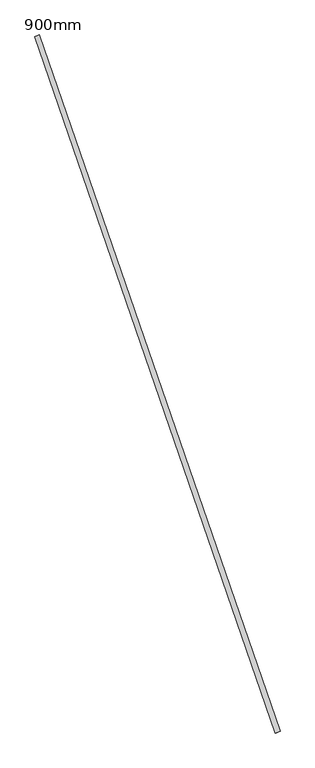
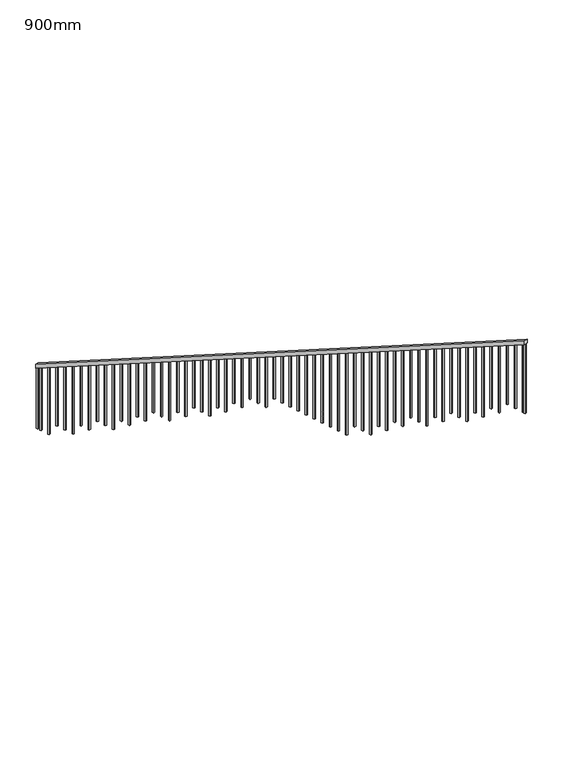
"""IFC4 building model written with IfcOpenShell, lengths in millimetres: railing geometry, 900mm."""

from ifc_helpers import new_model, si_unit, frame, origin, place, context, project, spatial, polyline, outline, extrude, source, transform, mapped, element, save


def railing_900mm_441bb158(model_context):
    return source(origin(), model_context, "Body", "SweptSolid", [
        extrude(outline(polyline([(25.1552795, -49.9999999), (0.0, 0.0), (8507.6398583, 1e-07), (8532.7951379, -50.0), (25.1552795, -49.9999999)])), frame((501134.4272488, 36723.9035754, 1045.2709212), z_axis=(0.9452094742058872, 0.32646446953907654, 0.0), x_axis=(0.2916355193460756, -0.8443695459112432, 0.44943163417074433)), (0.0, 0.0, 1.0), 50.0),
        extrude(outline(polyline([(105.0310559, 0.0), (1076.0939025, 0.0), (1076.0939025, -20.0), (94.9689441, -20.0), (105.0310559, 0.0)])), frame((503614.2282971, 29590.1059885, 4950.006946), z_axis=(0.9452094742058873, 0.3264644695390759, 0.0), x_axis=(0.0, 0.0, -1.0)), (0.0, 0.0, 1.0), 20.0),
        extrude(outline(polyline([(105.0310559, 0.0), (1013.2057038, 0.0), (1013.2057038, -20.0), (94.9689441, -20.0), (105.0310559, 0.0)])), frame((503573.4202384, 29708.2571728, 4887.1187473), z_axis=(0.9452094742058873, 0.3264644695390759, 0.0), x_axis=(0.0, 0.0, -1.0)), (0.0, 0.0, 1.0), 20.0),
        extrude(outline(polyline([(105.0310559, 0.0), (950.317505, 0.0), (950.317505, -20.0), (94.9689441, -20.0), (105.0310559, 0.0)])), frame((503532.6121797, 29826.408357, 4824.2305485), z_axis=(0.9452094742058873, 0.3264644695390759, 0.0), x_axis=(0.0, 0.0, -1.0)), (0.0, 0.0, 1.0), 20.0),
        extrude(outline(polyline([(105.0310559, 0.0), (1063.5162627, 0.0), (1063.5162627, -20.0), (94.9689441, -20.0), (105.0310559, 0.0)])), frame((503491.804121, 29944.5595413, 4761.3423497), z_axis=(0.9452094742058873, 0.3264644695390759, 0.0), x_axis=(0.0, 0.0, -1.0)), (0.0, 0.0, 1.0), 20.0),
        extrude(outline(polyline([(105.0310559, 0.0), (1000.628064, 0.0), (1000.628064, -20.0), (94.9689441, -20.0), (105.0310559, 0.0)])), frame((503450.9960623, 30062.7107256, 4698.454151), z_axis=(0.9452094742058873, 0.3264644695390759, 0.0), x_axis=(0.0, 0.0, -1.0)), (0.0, 0.0, 1.0), 20.0),
        extrude(outline(polyline([(105.0310559, 0.0), (1113.8268218, 0.0), (1113.8268218, -20.0), (94.9689441, -20.0), (105.0310559, 0.0)])), frame((503410.1880037, 30180.8619099, 4635.5659522), z_axis=(0.9452094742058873, 0.3264644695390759, 0.0), x_axis=(0.0, 0.0, -1.0)), (0.0, 0.0, 1.0), 20.0),
        extrude(outline(polyline([(105.0310559, 0.0), (1050.9386231, 0.0), (1050.9386231, -20.0), (94.9689441, -20.0), (105.0310559, 0.0)])), frame((503369.379945, 30299.0130941, 4572.6777535), z_axis=(0.9452094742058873, 0.3264644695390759, 0.0), x_axis=(0.0, 0.0, -1.0)), (0.0, 0.0, 1.0), 20.0),
        extrude(outline(polyline([(105.0310559, 0.0), (1164.1373808, 0.0), (1164.1373808, -20.0), (94.9689441, -20.0), (105.0310559, 0.0)])), frame((503328.5718863, 30417.1642784, 4509.7895547), z_axis=(0.9452094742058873, 0.3264644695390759, 0.0), x_axis=(0.0, 0.0, -1.0)), (0.0, 0.0, 1.0), 20.0),
        extrude(outline(polyline([(105.0310559, 0.0), (1101.249182, 0.0), (1101.249182, -20.0), (94.9689441, -20.0), (105.0310559, 0.0)])), frame((503287.7638276, 30535.3154627, 4446.9013559), z_axis=(0.9452094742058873, 0.3264644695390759, 0.0), x_axis=(0.0, 0.0, -1.0)), (0.0, 0.0, 1.0), 20.0),
        extrude(outline(polyline([(105.0310559, 0.0), (1038.3609833, 0.0), (1038.3609833, -20.0), (94.9689441, -20.0), (105.0310559, 0.0)])), frame((503246.9557689, 30653.466647, 4384.0131572), z_axis=(0.9452094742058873, 0.3264644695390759, 0.0), x_axis=(0.0, 0.0, -1.0)), (0.0, 0.0, 1.0), 20.0),
        extrude(outline(polyline([(105.0310559, 0.0), (1151.559741, 0.0), (1151.559741, -19.9999999), (94.9689441, -19.9999999), (105.0310559, 0.0)])), frame((503206.1477102, 30771.6178312, 4321.1249584), z_axis=(0.9452094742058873, 0.3264644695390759, 0.0), x_axis=(0.0, 0.0, -1.0)), (0.0, 0.0, 1.0), 20.0),
        extrude(outline(polyline([(105.0310559, 0.0), (1088.6715423, 0.0), (1088.6715423, -20.0), (94.9689441, -20.0), (105.0310559, 0.0)])), frame((503165.3396515, 30889.7690155, 4258.2367597), z_axis=(0.9452094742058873, 0.3264644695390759, 0.0), x_axis=(0.0, 0.0, -1.0)), (0.0, 0.0, 1.0), 20.0),
        extrude(outline(polyline([(105.0310559, 0.0), (1201.8703, 0.0), (1201.8703, -20.0), (94.9689441, -20.0), (105.0310559, 0.0)])), frame((503124.5315928, 31007.9201998, 4195.3485609), z_axis=(0.9452094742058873, 0.3264644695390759, 0.0), x_axis=(0.0, 0.0, -1.0)), (0.0, 0.0, 1.0), 20.0),
        extrude(outline(polyline([(105.0310559, 0.0), (1138.9821013, 0.0), (1138.9821013, -20.0), (94.9689441, -20.0), (105.0310559, 0.0)])), frame((503083.7235341, 31126.0713841, 4132.4603622), z_axis=(0.9452094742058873, 0.3264644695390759, 0.0), x_axis=(0.0, 0.0, -1.0)), (0.0, 0.0, 1.0), 20.0),
        extrude(outline(polyline([(105.0310559, 0.0), (1076.0939025, 0.0), (1076.0939025, -19.9999999), (94.9689441, -19.9999999), (105.0310559, 0.0)])), frame((503042.9154754, 31244.2225683, 4069.5721634), z_axis=(0.9452094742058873, 0.3264644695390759, 0.0), x_axis=(0.0, 0.0, -1.0)), (0.0, 0.0, 1.0), 20.0),
        extrude(outline(polyline([(105.0310559, 0.0), (1189.2926603, 0.0), (1189.2926603, -20.0), (94.9689441, -20.0), (105.0310559, 0.0)])), frame((503002.1074167, 31362.3737526, 4006.6839646), z_axis=(0.9452094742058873, 0.3264644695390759, 0.0), x_axis=(0.0, 0.0, -1.0)), (0.0, 0.0, 1.0), 20.0),
        extrude(outline(polyline([(105.0310559, 0.0), (1126.4044616, 0.0), (1126.4044616, -20.0), (94.9689441, -20.0), (105.0310559, 0.0)])), frame((502961.299358, 31480.5249369, 3943.7957659), z_axis=(0.9452094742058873, 0.3264644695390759, 0.0), x_axis=(0.0, 0.0, -1.0)), (0.0, 0.0, 1.0), 20.0),
        extrude(outline(polyline([(105.0310559, 0.0), (1239.6032193, 0.0), (1239.6032193, -20.0), (94.9689441, -20.0), (105.0310559, 0.0)])), frame((502920.4912993, 31598.6761212, 3880.9075671), z_axis=(0.9452094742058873, 0.3264644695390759, 0.0), x_axis=(0.0, 0.0, -1.0)), (0.0, 0.0, 1.0), 20.0),
        extrude(outline(polyline([(105.0310559, 0.0), (1176.7150206, 0.0), (1176.7150206, -19.9999999), (94.9689441, -19.9999999), (105.0310559, 0.0)])), frame((502879.6832407, 31716.8273054, 3818.0193684), z_axis=(0.9452094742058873, 0.3264644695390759, 0.0), x_axis=(0.0, 0.0, -1.0)), (0.0, 0.0, 1.0), 20.0),
        extrude(outline(polyline([(105.0310559, 0.0), (1289.9137783, 0.0), (1289.9137783, -20.0), (94.9689441, -20.0), (105.0310559, 0.0)])), frame((502838.875182, 31834.9784897, 3755.1311696), z_axis=(0.9452094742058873, 0.3264644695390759, 0.0), x_axis=(0.0, 0.0, -1.0)), (0.0, 0.0, 1.0), 20.0),
        extrude(outline(polyline([(105.0310559, 0.0), (1227.0255796, 0.0), (1227.0255796, -20.0), (94.9689441, -20.0), (105.0310559, 0.0)])), frame((502798.0671233, 31953.129674, 3692.2429709), z_axis=(0.9452094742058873, 0.3264644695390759, 0.0), x_axis=(0.0, 0.0, -1.0)), (0.0, 0.0, 1.0), 20.0),
        extrude(outline(polyline([(105.0310559, 0.0), (1164.1373808, 0.0), (1164.1373808, -20.0), (94.9689441, -20.0), (105.0310559, 0.0)])), frame((502757.2590646, 32071.2808583, 3629.3547721), z_axis=(0.9452094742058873, 0.3264644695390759, 0.0), x_axis=(0.0, 0.0, -1.0)), (0.0, 0.0, 1.0), 20.0),
        extrude(outline(polyline([(105.0310559, 0.0), (1277.3361385, 0.0), (1277.3361385, -19.9999999), (94.9689441, -19.9999999), (105.0310559, 0.0)])), frame((502716.4510059, 32189.4320425, 3566.4665733), z_axis=(0.9452094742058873, 0.3264644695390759, 0.0), x_axis=(0.0, 0.0, -1.0)), (0.0, 0.0, 1.0), 20.0),
        extrude(outline(polyline([(105.0310559, 0.0), (1214.4479398, 0.0), (1214.4479398, -20.0), (94.9689441, -20.0), (105.0310559, 0.0)])), frame((502675.6429472, 32307.5832268, 3503.5783746), z_axis=(0.9452094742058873, 0.3264644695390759, 0.0), x_axis=(0.0, 0.0, -1.0)), (0.0, 0.0, 1.0), 20.0),
        extrude(outline(polyline([(105.0310559, 0.0), (1151.559741, 0.0), (1151.559741, -20.0), (94.9689441, -20.0), (105.0310559, 0.0)])), frame((502634.8348885, 32425.7344111, 3440.6901758), z_axis=(0.9452094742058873, 0.3264644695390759, 0.0), x_axis=(0.0, 0.0, -1.0)), (0.0, 0.0, 1.0), 20.0),
        extrude(outline(polyline([(105.0310559, 0.0), (1088.6715423, 0.0), (1088.6715423, -20.0), (94.9689441, -20.0), (105.0310559, 0.0)])), frame((502594.0268298, 32543.8855954, 3377.8019771), z_axis=(0.9452094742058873, 0.3264644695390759, 0.0), x_axis=(0.0, 0.0, -1.0)), (0.0, 0.0, 1.0), 20.0),
        extrude(outline(polyline([(105.0310559, 0.0), (1025.7833435, 0.0), (1025.7833435, -19.9999999), (94.9689441, -19.9999999), (105.0310559, 0.0)])), frame((502553.2187711, 32662.0367796, 3314.9137783), z_axis=(0.9452094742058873, 0.3264644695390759, 0.0), x_axis=(0.0, 0.0, -1.0)), (0.0, 0.0, 1.0), 20.0),
        extrude(outline(polyline([(105.0310559, 0.0), (962.8951448, 0.0), (962.8951448, -20.0), (94.9689441, -20.0), (105.0310559, 0.0)])), frame((502512.4107124, 32780.1879639, 3252.0255796), z_axis=(0.9452094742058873, 0.3264644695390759, 0.0), x_axis=(0.0, 0.0, -1.0)), (0.0, 0.0, 1.0), 20.0),
        extrude(outline(polyline([(105.0310559, 0.0), (900.006946, 0.0), (900.006946, -20.0), (94.9689441, -20.0), (105.0310559, 0.0)])), frame((502471.6026537, 32898.3391482, 3189.1373808), z_axis=(0.9452094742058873, 0.3264644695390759, 0.0), x_axis=(0.0, 0.0, -1.0)), (0.0, 0.0, 1.0), 20.0),
        extrude(outline(polyline([(105.0310559, 0.0), (837.1187472, 0.0), (837.1187472, -20.0), (94.9689441, -20.0), (105.0310559, 0.0)])), frame((502430.794595, 33016.4903325, 3126.249182), z_axis=(0.9452094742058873, 0.3264644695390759, 0.0), x_axis=(0.0, 0.0, -1.0)), (0.0, 0.0, 1.0), 20.0),
        extrude(outline(polyline([(105.0310559, 0.0), (774.2305485, 0.0), (774.2305485, -20.0), (94.9689441, -20.0), (105.0310559, 0.0)])), frame((502389.9865363, 33134.6415168, 3063.3609833), z_axis=(0.9452094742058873, 0.3264644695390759, 0.0), x_axis=(0.0, 0.0, -1.0)), (0.0, 0.0, 1.0), 20.0),
        extrude(outline(polyline([(105.0310559, 0.0), (711.3423497, 0.0), (711.3423497, -20.0), (94.9689441, -20.0), (105.0310559, 0.0)])), frame((502349.1784777, 33252.792701, 3000.4727845), z_axis=(0.9452094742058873, 0.3264644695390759, 0.0), x_axis=(0.0, 0.0, -1.0)), (0.0, 0.0, 1.0), 20.0),
        extrude(outline(polyline([(105.0310559, 0.0), (824.5411075, 0.0), (824.5411075, -20.0), (94.9689441, -20.0), (105.0310559, 0.0)])), frame((502308.370419, 33370.9438853, 2937.5845858), z_axis=(0.9452094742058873, 0.3264644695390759, 0.0), x_axis=(0.0, 0.0, -1.0)), (0.0, 0.0, 1.0), 20.0),
        extrude(outline(polyline([(105.0310559, 0.0), (761.6529087, 0.0), (761.6529087, -20.0), (94.9689441, -20.0), (105.0310559, 0.0)])), frame((502267.5623603, 33489.0950696, 2874.696387), z_axis=(0.9452094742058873, 0.3264644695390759, 0.0), x_axis=(0.0, 0.0, -1.0)), (0.0, 0.0, 1.0), 20.0),
        extrude(outline(polyline([(105.0310559, 0.0), (698.7647099, 0.0), (698.7647099, -20.0), (94.9689441, -20.0), (105.0310559, 0.0)])), frame((502226.7543016, 33607.2462539, 2811.8081882), z_axis=(0.9452094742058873, 0.3264644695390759, 0.0), x_axis=(0.0, 0.0, -1.0)), (0.0, 0.0, 1.0), 20.0),
        extrude(outline(polyline([(105.0310559, 0.0), (811.9634678, 0.0), (811.9634678, -20.0), (94.9689441, -20.0), (105.0310559, 0.0)])), frame((502185.9462429, 33725.3974381, 2748.9199895), z_axis=(0.9452094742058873, 0.3264644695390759, 0.0), x_axis=(0.0, 0.0, -1.0)), (0.0, 0.0, 1.0), 20.0),
        extrude(outline(polyline([(105.0310559, 0.0), (749.075269, 0.0), (749.075269, -20.0), (94.9689441, -20.0), (105.0310559, 0.0)])), frame((502145.1381842, 33843.5486224, 2686.0317907), z_axis=(0.9452094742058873, 0.3264644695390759, 0.0), x_axis=(0.0, 0.0, -1.0)), (0.0, 0.0, 1.0), 20.0),
        extrude(outline(polyline([(105.0310559, 0.0), (862.2740268, 0.0), (862.2740268, -20.0), (94.9689441, -20.0), (105.0310559, 0.0)])), frame((502104.3301255, 33961.6998067, 2623.143592), z_axis=(0.9452094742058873, 0.3264644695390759, 0.0), x_axis=(0.0, 0.0, -1.0)), (0.0, 0.0, 1.0), 20.0),
        extrude(outline(polyline([(105.0310559, 0.0), (799.385828, 0.0), (799.385828, -20.0), (94.9689441, -20.0), (105.0310559, 0.0)])), frame((502063.5220668, 34079.850991, 2560.2553932), z_axis=(0.9452094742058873, 0.3264644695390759, 0.0), x_axis=(0.0, 0.0, -1.0)), (0.0, 0.0, 1.0), 20.0),
        extrude(outline(polyline([(105.0310559, 0.0), (912.5845858, 0.0), (912.5845858, -20.0), (94.9689441, -20.0), (105.0310559, 0.0)])), frame((502022.7140081, 34198.0021752, 2497.3671945), z_axis=(0.9452094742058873, 0.3264644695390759, 0.0), x_axis=(0.0, 0.0, -1.0)), (0.0, 0.0, 1.0), 20.0),
        extrude(outline(polyline([(105.0310559, 0.0), (849.696387, 0.0), (849.696387, -20.0), (94.9689441, -20.0), (105.0310559, 0.0)])), frame((501981.9059494, 34316.1533595, 2434.4789957), z_axis=(0.9452094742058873, 0.3264644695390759, 0.0), x_axis=(0.0, 0.0, -1.0)), (0.0, 0.0, 1.0), 20.0),
        extrude(outline(polyline([(105.0310559, 0.0), (786.8081882, 0.0), (786.8081882, -20.0), (94.9689441, -20.0), (105.0310559, 0.0)])), frame((501941.0978907, 34434.3045438, 2371.5907969), z_axis=(0.9452094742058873, 0.3264644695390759, 0.0), x_axis=(0.0, 0.0, -1.0)), (0.0, 0.0, 1.0), 20.0),
        extrude(outline(polyline([(105.0310559, 0.0), (900.006946, 0.0), (900.006946, -20.0), (94.9689441, -20.0), (105.0310559, 0.0)])), frame((501900.289832, 34552.4557281, 2308.7025982), z_axis=(0.9452094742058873, 0.3264644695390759, 0.0), x_axis=(0.0, 0.0, -1.0)), (0.0, 0.0, 1.0), 20.0),
        extrude(outline(polyline([(105.0310559, 0.0), (837.1187472, 0.0), (837.1187472, -19.9999999), (94.9689441, -19.9999999), (105.0310559, 0.0)])), frame((501859.4817733, 34670.6069123, 2245.8143994), z_axis=(0.9452094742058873, 0.3264644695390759, 0.0), x_axis=(0.0, 0.0, -1.0)), (0.0, 0.0, 1.0), 20.0),
        extrude(outline(polyline([(105.0310559, 0.0), (950.317505, 0.0), (950.317505, -20.0), (94.9689441, -20.0), (105.0310559, 0.0)])), frame((501818.6737147, 34788.7580966, 2182.9262007), z_axis=(0.9452094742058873, 0.3264644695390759, 0.0), x_axis=(0.0, 0.0, -1.0)), (0.0, 0.0, 1.0), 20.0),
        extrude(outline(polyline([(105.0310559, 0.0), (887.4293062, 0.0), (887.4293062, -20.0), (94.9689441, -20.0), (105.0310559, 0.0)])), frame((501777.865656, 34906.9092809, 2120.0380019), z_axis=(0.9452094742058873, 0.3264644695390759, 0.0), x_axis=(0.0, 0.0, -1.0)), (0.0, 0.0, 1.0), 20.0),
        extrude(outline(polyline([(105.0310559, 0.0), (824.5411075, 0.0), (824.5411075, -20.0), (94.9689441, -20.0), (105.0310559, 0.0)])), frame((501737.0575973, 35025.0604652, 2057.1498032), z_axis=(0.9452094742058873, 0.3264644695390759, 0.0), x_axis=(0.0, 0.0, -1.0)), (0.0, 0.0, 1.0), 20.0),
        extrude(outline(polyline([(105.0310559, 0.0), (937.7398653, 0.0), (937.7398653, -19.9999999), (94.9689441, -19.9999999), (105.0310559, 0.0)])), frame((501696.2495386, 35143.2116494, 1994.2616044), z_axis=(0.9452094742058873, 0.3264644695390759, 0.0), x_axis=(0.0, 0.0, -1.0)), (0.0, 0.0, 1.0), 20.0),
        extrude(outline(polyline([(105.0310559, 0.0), (874.8516665, 0.0), (874.8516665, -20.0), (94.9689441, -20.0), (105.0310559, 0.0)])), frame((501655.4414799, 35261.3628337, 1931.3734056), z_axis=(0.9452094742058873, 0.3264644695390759, 0.0), x_axis=(0.0, 0.0, -1.0)), (0.0, 0.0, 1.0), 20.0),
        extrude(outline(polyline([(105.0310559, 0.0), (988.0504243, 0.0), (988.0504243, -20.0), (94.9689441, -20.0), (105.0310559, 0.0)])), frame((501614.6334212, 35379.514018, 1868.4852069), z_axis=(0.9452094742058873, 0.3264644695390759, 0.0), x_axis=(0.0, 0.0, -1.0)), (0.0, 0.0, 1.0), 20.0),
        extrude(outline(polyline([(105.0310559, 0.0), (925.1622255, 0.0), (925.1622255, -20.0), (94.9689441, -20.0), (105.0310559, 0.0)])), frame((501573.8253625, 35497.6652023, 1805.5970081), z_axis=(0.9452094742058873, 0.3264644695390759, 0.0), x_axis=(0.0, 0.0, -1.0)), (0.0, 0.0, 1.0), 20.0),
        extrude(outline(polyline([(105.0310559, 0.0), (1038.3609833, 0.0), (1038.3609833, -19.9999999), (94.9689441, -19.9999999), (105.0310559, 0.0)])), frame((501533.0173038, 35615.8163865, 1742.7088094), z_axis=(0.9452094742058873, 0.3264644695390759, 0.0), x_axis=(0.0, 0.0, -1.0)), (0.0, 0.0, 1.0), 20.0),
        extrude(outline(polyline([(105.0310559, 0.0), (975.4727845, 0.0), (975.4727845, -20.0), (94.9689441, -20.0), (105.0310559, 0.0)])), frame((501492.2092451, 35733.9675708, 1679.8206106), z_axis=(0.9452094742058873, 0.3264644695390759, 0.0), x_axis=(0.0, 0.0, -1.0)), (0.0, 0.0, 1.0), 20.0),
        extrude(outline(polyline([(105.031056, 0.0), (912.5845858, 0.0), (912.5845858, -20.0), (94.9689441, -20.0), (105.031056, 0.0)])), frame((501451.4011864, 35852.1187551, 1616.9324119), z_axis=(0.9452094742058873, 0.3264644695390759, 0.0), x_axis=(0.0, 0.0, -1.0)), (0.0, 0.0, 1.0), 20.0),
        extrude(outline(polyline([(105.0310559, 0.0), (1025.7833435, 0.0), (1025.7833435, -20.0), (94.9689441, -20.0), (105.0310559, 0.0)])), frame((501410.5931277, 35970.2699394, 1554.0442131), z_axis=(0.9452094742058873, 0.3264644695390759, 0.0), x_axis=(0.0, 0.0, -1.0)), (0.0, 0.0, 1.0), 20.0),
        extrude(outline(polyline([(105.0310559, 0.0), (962.8951447, 0.0), (962.8951447, -19.9999999), (94.9689441, -19.9999999), (105.0310559, 0.0)])), frame((501369.785069, 36088.4211236, 1491.1560143), z_axis=(0.9452094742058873, 0.3264644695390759, 0.0), x_axis=(0.0, 0.0, -1.0)), (0.0, 0.0, 1.0), 20.0),
        extrude(outline(polyline([(105.0310559, 0.0), (1076.0939026, 0.0), (1076.0939026, -20.0), (94.9689441, -20.0), (105.0310559, 0.0)])), frame((501328.9770103, 36206.5723079, 1428.2678156), z_axis=(0.9452094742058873, 0.3264644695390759, 0.0), x_axis=(0.0, 0.0, -1.0)), (0.0, 0.0, 1.0), 20.0),
        extrude(outline(polyline([(105.0310559, 0.0), (1013.2057038, 0.0), (1013.2057038, -20.0), (94.9689441, -20.0), (105.0310559, 0.0)])), frame((501288.1689516, 36324.7234922, 1365.3796168), z_axis=(0.9452094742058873, 0.3264644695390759, 0.0), x_axis=(0.0, 0.0, -1.0)), (0.0, 0.0, 1.0), 20.0),
        extrude(outline(polyline([(105.0310559, 0.0), (950.3175051, 0.0), (950.3175051, -20.0), (94.9689441, -20.0), (105.0310559, 0.0)])), frame((501247.360893, 36442.8746765, 1302.4914181), z_axis=(0.9452094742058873, 0.3264644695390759, 0.0), x_axis=(0.0, 0.0, -1.0)), (0.0, 0.0, 1.0), 20.0),
        extrude(outline(polyline([(105.0310559, 0.0), (1063.5162628, 0.0), (1063.5162628, -19.9999999), (94.9689441, -19.9999999), (105.0310559, 0.0)])), frame((501206.5528343, 36561.0258607, 1239.6032193), z_axis=(0.9452094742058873, 0.3264644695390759, 0.0), x_axis=(0.0, 0.0, -1.0)), (0.0, 0.0, 1.0), 20.0),
        extrude(outline(polyline([(105.0310559, 0.0), (1000.628064, 0.0), (1000.628064, -20.0), (94.9689441, -20.0), (105.0310559, 0.0)])), frame((501165.7447756, 36679.177045, 1176.7150205), z_axis=(0.9452094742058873, 0.3264644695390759, 0.0), x_axis=(0.0, 0.0, -1.0)), (0.0, 0.0, 1.0), 20.0),
        extrude(outline(polyline([(105.0310559, 0.0), (1089.9293062, 0.0), (1089.9293062, -19.9999999), (94.9689441, -19.9999999), (105.0310559, 0.0)])), frame((503623.20607, 29564.1127279, 4963.8423497), z_axis=(0.9452094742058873, 0.3264644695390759, 0.0), x_axis=(0.0, 0.0, -1.0)), (0.0, 0.0, 1.0), 20.0),
        extrude(outline(polyline([(105.0310559, 0.0), (974.2150206, 0.0), (974.2150206, -20.0), (94.9689441, -20.0), (105.0310559, 0.0)])), frame((501148.6053909, 36728.8005424, 1150.3019771), z_axis=(0.9452094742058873, 0.3264644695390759, 0.0), x_axis=(0.0, 0.0, -1.0)), (0.0, 0.0, 1.0), 20.0),
    ])


if __name__ == "__main__":
    model = new_model("IFC4")
    model_context = context("Model", 3, world=origin())
    ifc_project = project(units=[si_unit("LENGTHUNIT", "METRE", prefix="MILLI")], contexts=[model_context])
    site = spatial("IfcSite", under=ifc_project)
    building = spatial("IfcBuilding", under=site)
    placement = place(None, origin())
    railing_900mm_shape = railing_900mm_441bb158(model_context)
    element("IfcRailing", 1, ObjectType="900mm", at=placement, inside=building, context=model_context, shape_type="MappedRepresentation", body=[
        mapped(railing_900mm_shape, transform((0.0, 0.0, 0.0), x_axis=(1.0, 0.0, 0.0), y_axis=(0.0, 1.0, 0.0), z_axis=(0.0, 0.0, 1.0))),
    ])
    save(model, "model.ifc")
